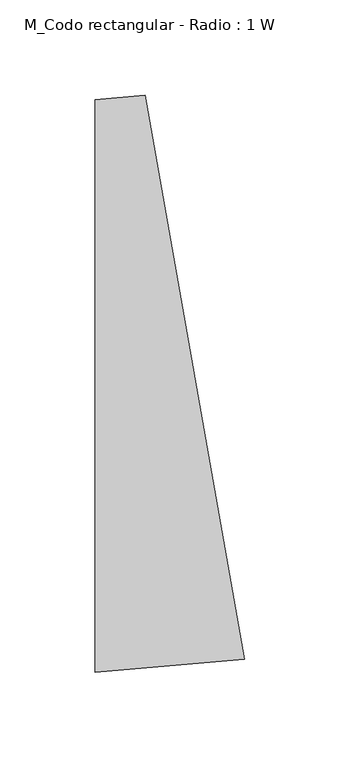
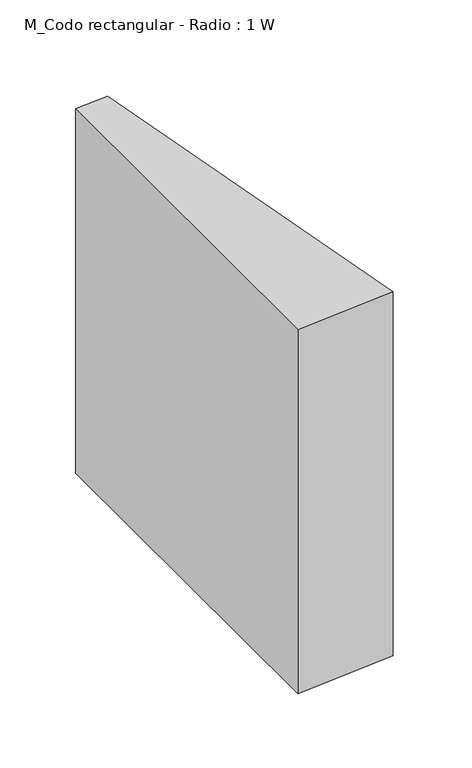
"""IFC4 building model written with IfcOpenShell, lengths in millimetres: duct fitting geometry, M_Codo rectangular - Radio : 1 W."""

from ifc_helpers import new_model, si_unit, point, frame, frame_2d, origin, place, context, project, spatial, polyline, circle_curve, trimmed, segment, composite_curve, outline, extrude, source, transform, mapped, element, save


def m_codo_rectangular_radio_1_w_fe51c479(model_context):
    return source(origin(), model_context, "Body", "SweptSolid", [
        extrude(outline(composite_curve([segment(trimmed(circle_curve(frame_2d((-26.2465991, 300.0)), 450.0), [point((51.8950809, -143.1634889))], [point((-26.2465991, -150.0))], False, "CARTESIAN"), True, "CONTINUOUS"), segment(polyline([(-26.2465991, -150.0), (-26.2465991, 150.0)]), True, "CONTINUOUS"), segment(trimmed(circle_curve(frame_2d((-26.2465991, 300.0)), 150.0), [point((-26.2465991, 150.0))], [point((-0.1993724, 152.278837))], True, "CARTESIAN"), True, "CONTINUOUS"), segment(polyline([(-0.1993724, 152.278837), (51.8950809, -143.1634889)]), True, "CONTINUOUS")], self_intersect=False)), frame((0.0, 0.0, -150.0), z_axis=(0.0, 0.0, 1.0), x_axis=(1.0, 0.0, 0.0)), (0.0, 0.0, 1.0), 300.0),
    ])


if __name__ == "__main__":
    model = new_model("IFC4")
    model_context = context("Model", 3, world=origin())
    ifc_project = project(units=[si_unit("LENGTHUNIT", "METRE", prefix="MILLI")], contexts=[model_context])
    site = spatial("IfcSite", under=ifc_project)
    building = spatial("IfcBuilding", under=site)
    placement = place(None, origin())
    m_codo_rectangular_radio_1_w_shape = m_codo_rectangular_radio_1_w_fe51c479(model_context)
    element("IfcDuctFitting", 1, ObjectType="M_Codo rectangular - Radio : 1 W", at=placement, inside=building, context=model_context, shape_type="MappedRepresentation", body=[
        mapped(m_codo_rectangular_radio_1_w_shape, transform((0.0, 0.0, 0.0), x_axis=(1.0, 0.0, 0.0), y_axis=(0.0, 1.0, 0.0), z_axis=(0.0, 0.0, 1.0))),
    ])
    save(model, "model.ifc")
